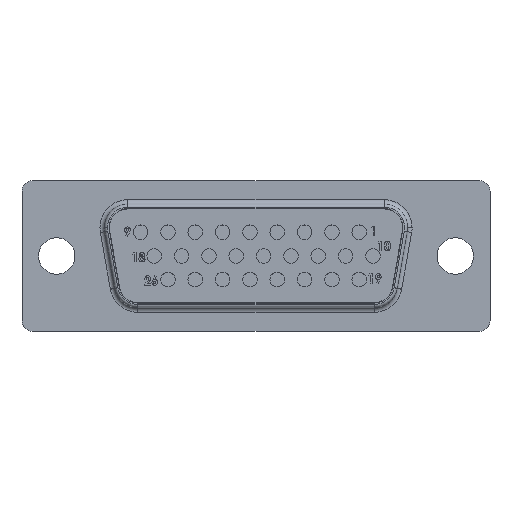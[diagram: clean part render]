
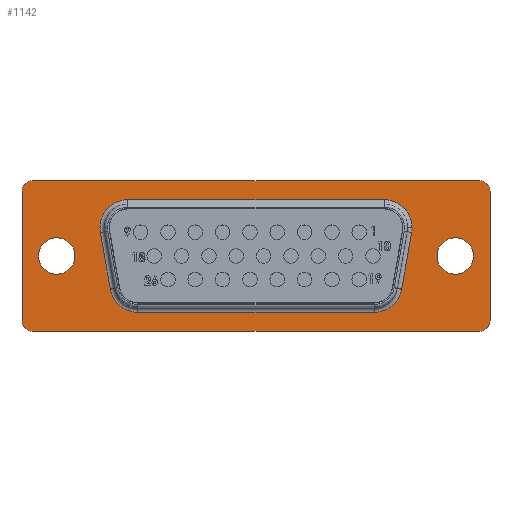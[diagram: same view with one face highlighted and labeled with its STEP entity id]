
A CAD part, top view. The second image highlights one B-rep face of the part: STEP entity #1142.
In plain terms, the highlighted planar face has unit normal (0, 0, 1).
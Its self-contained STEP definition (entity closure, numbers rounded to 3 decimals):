
#389=FACE_BOUND('',#2621,.F.);
#390=FACE_BOUND('',#2622,.F.);
#391=FACE_BOUND('',#2623,.F.);
#1142=ADVANCED_FACE('',(#389,#390,#391,#1875),#6716,.T.);
#1875=FACE_OUTER_BOUND('',#2624,.F.);
#2621=EDGE_LOOP('',(#5143,#5144,#5145,#5146,#5147,#5148,#5149,#5150,#5151));
#2622=EDGE_LOOP('',(#5152,#5153));
#2623=EDGE_LOOP('',(#5154,#5155));
#2624=EDGE_LOOP('',(#5156,#5157,#5158,#5159,#5160,#5161,#5162,#5163));
#5143=ORIENTED_EDGE('',*,*,#8643,.F.);
#5144=ORIENTED_EDGE('',*,*,#8644,.T.);
#5145=ORIENTED_EDGE('',*,*,#8645,.F.);
#5146=ORIENTED_EDGE('',*,*,#8646,.T.);
#5147=ORIENTED_EDGE('',*,*,#8647,.F.);
#5148=ORIENTED_EDGE('',*,*,#8648,.T.);
#5149=ORIENTED_EDGE('',*,*,#8649,.F.);
#5150=ORIENTED_EDGE('',*,*,#8650,.T.);
#5151=ORIENTED_EDGE('',*,*,#7723,.T.);
#5152=ORIENTED_EDGE('',*,*,#7738,.T.);
#5153=ORIENTED_EDGE('',*,*,#8651,.T.);
#5154=ORIENTED_EDGE('',*,*,#7742,.T.);
#5155=ORIENTED_EDGE('',*,*,#8652,.T.);
#5156=ORIENTED_EDGE('',*,*,#8653,.F.);
#5157=ORIENTED_EDGE('',*,*,#8654,.F.);
#5158=ORIENTED_EDGE('',*,*,#8655,.F.);
#5159=ORIENTED_EDGE('',*,*,#8656,.F.);
#5160=ORIENTED_EDGE('',*,*,#8657,.F.);
#5161=ORIENTED_EDGE('',*,*,#8658,.F.);
#5162=ORIENTED_EDGE('',*,*,#8659,.F.);
#5163=ORIENTED_EDGE('',*,*,#8660,.F.);
#6716=PLANE('',#13233);
#7289=CIRCLE('',#12471,2.337);
#7299=CIRCLE('',#12481,1.524);
#7301=CIRCLE('',#12483,1.524);
#7519=CIRCLE('',#12701,2.337);
#7520=CIRCLE('',#12702,2.337);
#7521=CIRCLE('',#12703,2.337);
#7522=CIRCLE('',#12704,2.337);
#7523=CIRCLE('',#12705,1.524);
#7524=CIRCLE('',#12706,1.524);
#7525=CIRCLE('',#12707,0.889);
#7526=CIRCLE('',#12708,0.889);
#7527=CIRCLE('',#12709,0.889);
#7528=CIRCLE('',#12710,0.889);
#7723=EDGE_CURVE('',#12281,#12283,#7289,.T.);
#7738=EDGE_CURVE('',#12267,#12268,#7299,.T.);
#7742=EDGE_CURVE('',#12263,#12264,#7301,.T.);
#8643=EDGE_CURVE('',#11554,#12283,#9826,.T.);
#8644=EDGE_CURVE('',#11554,#11553,#7519,.T.);
#8645=EDGE_CURVE('',#11552,#11553,#9827,.T.);
#8646=EDGE_CURVE('',#11552,#11551,#7520,.T.);
#8647=EDGE_CURVE('',#11550,#11551,#9828,.T.);
#8648=EDGE_CURVE('',#11550,#11549,#7521,.T.);
#8649=EDGE_CURVE('',#11548,#11549,#9829,.T.);
#8650=EDGE_CURVE('',#11548,#12281,#7522,.T.);
#8651=EDGE_CURVE('',#12268,#12267,#7523,.T.);
#8652=EDGE_CURVE('',#12264,#12263,#7524,.T.);
#8653=EDGE_CURVE('',#11547,#11546,#7525,.T.);
#8654=EDGE_CURVE('',#11545,#11547,#9830,.T.);
#8655=EDGE_CURVE('',#11544,#11545,#7526,.T.);
#8656=EDGE_CURVE('',#11543,#11544,#9831,.T.);
#8657=EDGE_CURVE('',#11542,#11543,#7527,.T.);
#8658=EDGE_CURVE('',#11541,#11542,#9832,.T.);
#8659=EDGE_CURVE('',#11540,#11541,#7528,.T.);
#8660=EDGE_CURVE('',#11546,#11540,#9833,.T.);
#9826=LINE('',#21409,#10760);
#9827=LINE('',#21411,#10761);
#9828=LINE('',#21413,#10762);
#9829=LINE('',#21415,#10763);
#9830=LINE('',#21420,#10764);
#9831=LINE('',#21422,#10765);
#9832=LINE('',#21424,#10766);
#9833=LINE('',#21426,#10767);
#10760=VECTOR('',#14434,21.435);
#10761=VECTOR('',#14437,4.823);
#10762=VECTOR('',#14440,19.758);
#10763=VECTOR('',#14443,4.823);
#10764=VECTOR('',#14452,10.82);
#10765=VECTOR('',#14455,37.363);
#10766=VECTOR('',#14458,10.82);
#10767=VECTOR('',#14461,37.363);
#11540=VERTEX_POINT('',#16625);
#11541=VERTEX_POINT('',#16626);
#11542=VERTEX_POINT('',#16627);
#11543=VERTEX_POINT('',#16628);
#11544=VERTEX_POINT('',#16629);
#11545=VERTEX_POINT('',#16630);
#11546=VERTEX_POINT('',#16631);
#11547=VERTEX_POINT('',#16632);
#11548=VERTEX_POINT('',#16633);
#11549=VERTEX_POINT('',#16634);
#11550=VERTEX_POINT('',#16635);
#11551=VERTEX_POINT('',#16636);
#11552=VERTEX_POINT('',#16637);
#11553=VERTEX_POINT('',#16638);
#11554=VERTEX_POINT('',#16639);
#12263=VERTEX_POINT('',#17348);
#12264=VERTEX_POINT('',#17349);
#12267=VERTEX_POINT('',#17352);
#12268=VERTEX_POINT('',#17353);
#12281=VERTEX_POINT('',#17366);
#12283=VERTEX_POINT('',#17368);
#12471=AXIS2_PLACEMENT_3D('',#17610,#13594,#13595);
#12481=AXIS2_PLACEMENT_3D('',#17625,#13619,#13620);
#12483=AXIS2_PLACEMENT_3D('',#17629,#13625,#13626);
#12701=AXIS2_PLACEMENT_3D('',#21410,#14435,#14436);
#12702=AXIS2_PLACEMENT_3D('',#21412,#14438,#14439);
#12703=AXIS2_PLACEMENT_3D('',#21414,#14441,#14442);
#12704=AXIS2_PLACEMENT_3D('',#21416,#14444,#14445);
#12705=AXIS2_PLACEMENT_3D('',#21417,#14446,#14447);
#12706=AXIS2_PLACEMENT_3D('',#21418,#14448,#14449);
#12707=AXIS2_PLACEMENT_3D('',#21419,#14450,#14451);
#12708=AXIS2_PLACEMENT_3D('',#21421,#14453,#14454);
#12709=AXIS2_PLACEMENT_3D('',#21423,#14456,#14457);
#12710=AXIS2_PLACEMENT_3D('',#21425,#14459,#14460);
#13233=AXIS2_PLACEMENT_3D('',#33789,#15996,#15997);
#13594=DIRECTION('',(0.,0.,1.));
#13595=DIRECTION('',(1.,0.,0.));
#13619=DIRECTION('',(0.,0.,1.));
#13620=DIRECTION('',(-1.,0.,0.));
#13625=DIRECTION('',(0.,0.,1.));
#13626=DIRECTION('',(-1.,0.,0.));
#14434=DIRECTION('',(1.,0.,0.));
#14435=DIRECTION('',(0.,0.,1.));
#14436=DIRECTION('',(0.,1.,0.));
#14437=DIRECTION('',(-0.174,0.985,0.));
#14438=DIRECTION('',(0.,0.,1.));
#14439=DIRECTION('',(-0.985,-0.174,0.));
#14440=DIRECTION('',(-1.,0.,0.));
#14441=DIRECTION('',(0.,0.,1.));
#14442=DIRECTION('',(0.,-1.,0.));
#14443=DIRECTION('',(-0.174,-0.985,0.));
#14444=DIRECTION('',(0.,0.,1.));
#14445=DIRECTION('',(0.985,-0.174,0.));
#14446=DIRECTION('',(0.,0.,1.));
#14447=DIRECTION('',(1.,0.,0.));
#14448=DIRECTION('',(0.,0.,1.));
#14449=DIRECTION('',(1.,0.,0.));
#14450=DIRECTION('',(0.,0.,1.));
#14451=DIRECTION('',(1.,0.,0.));
#14452=DIRECTION('',(0.,1.,0.));
#14453=DIRECTION('',(0.,0.,1.));
#14454=DIRECTION('',(0.,-1.,0.));
#14455=DIRECTION('',(1.,0.,0.));
#14456=DIRECTION('',(0.,0.,1.));
#14457=DIRECTION('',(-1.,0.,0.));
#14458=DIRECTION('',(0.,-1.,0.));
#14459=DIRECTION('',(0.,0.,1.));
#14460=DIRECTION('',(0.,1.,0.));
#14461=DIRECTION('',(-1.,0.,0.));
#15996=DIRECTION('',(0.,0.,1.));
#15997=DIRECTION('',(1.,0.,0.));
#16625=CARTESIAN_POINT('',(-221.94,10.048,-616.951));
#16626=CARTESIAN_POINT('',(-222.829,9.159,-616.951));
#16627=CARTESIAN_POINT('',(-222.829,-1.661,-616.951));
#16628=CARTESIAN_POINT('',(-221.94,-2.55,-616.951));
#16629=CARTESIAN_POINT('',(-184.576,-2.55,-616.951));
#16630=CARTESIAN_POINT('',(-183.687,-1.661,-616.951));
#16631=CARTESIAN_POINT('',(-184.576,10.048,-616.951));
#16632=CARTESIAN_POINT('',(-183.687,9.159,-616.951));
#16633=CARTESIAN_POINT('',(-190.239,5.718,-616.951));
#16634=CARTESIAN_POINT('',(-191.077,0.968,-616.951));
#16635=CARTESIAN_POINT('',(-193.379,-0.963,-616.951));
#16636=CARTESIAN_POINT('',(-213.137,-0.963,-616.951));
#16637=CARTESIAN_POINT('',(-215.438,0.968,-616.951));
#16638=CARTESIAN_POINT('',(-216.276,5.718,-616.951));
#16639=CARTESIAN_POINT('',(-213.975,8.461,-616.951));
#17348=CARTESIAN_POINT('',(-221.444,3.749,-616.951));
#17349=CARTESIAN_POINT('',(-218.396,3.749,-616.951));
#17352=CARTESIAN_POINT('',(-188.119,3.749,-616.951));
#17353=CARTESIAN_POINT('',(-185.071,3.749,-616.951));
#17366=CARTESIAN_POINT('',(-190.204,6.124,-616.951));
#17368=CARTESIAN_POINT('',(-192.54,8.461,-616.951));
#17610=CARTESIAN_POINT('',(-192.54,6.124,-616.951));
#17625=CARTESIAN_POINT('',(-186.595,3.749,-616.951));
#17629=CARTESIAN_POINT('',(-219.92,3.749,-616.951));
#21409=CARTESIAN_POINT('',(-213.975,8.461,-616.951));
#21410=CARTESIAN_POINT('',(-213.975,6.124,-616.951));
#21411=CARTESIAN_POINT('',(-215.438,0.968,-616.951));
#21412=CARTESIAN_POINT('',(-213.137,1.374,-616.951));
#21413=CARTESIAN_POINT('',(-193.379,-0.963,-616.951));
#21414=CARTESIAN_POINT('',(-193.379,1.374,-616.951));
#21415=CARTESIAN_POINT('',(-190.239,5.718,-616.951));
#21416=CARTESIAN_POINT('',(-192.54,6.124,-616.951));
#21417=CARTESIAN_POINT('',(-186.595,3.749,-616.951));
#21418=CARTESIAN_POINT('',(-219.92,3.749,-616.951));
#21419=CARTESIAN_POINT('',(-184.576,9.159,-616.951));
#21420=CARTESIAN_POINT('',(-183.687,-1.661,-616.951));
#21421=CARTESIAN_POINT('',(-184.576,-1.661,-616.951));
#21422=CARTESIAN_POINT('',(-221.94,-2.55,-616.951));
#21423=CARTESIAN_POINT('',(-221.94,-1.661,-616.951));
#21424=CARTESIAN_POINT('',(-222.829,9.159,-616.951));
#21425=CARTESIAN_POINT('',(-221.94,9.159,-616.951));
#21426=CARTESIAN_POINT('',(-184.576,10.048,-616.951));
#33789=CARTESIAN_POINT('',(-224.786,-4.507,-616.951));
